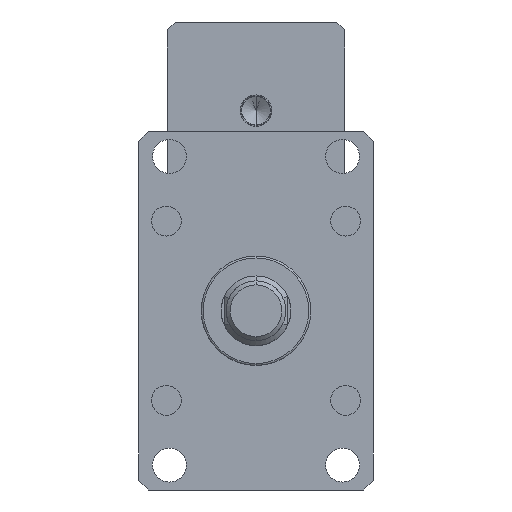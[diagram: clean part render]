
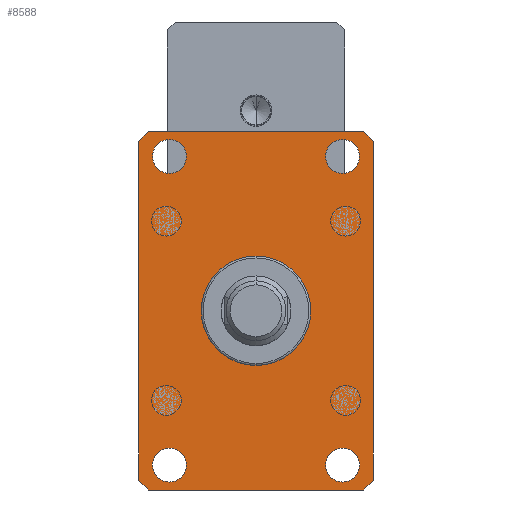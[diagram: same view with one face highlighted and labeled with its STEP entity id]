
A CAD part, front view. The second image highlights one B-rep face of the part: STEP entity #8588.
In plain terms, the highlighted planar face has unit normal (0, -1, 0).
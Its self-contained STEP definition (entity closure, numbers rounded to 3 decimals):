
#188 = EDGE_CURVE ( 'NONE', #7684, #4930, #10134, .T. ) ;
#219 = EDGE_LOOP ( 'NONE', ( #10125, #11797 ) ) ;
#263 = ORIENTED_EDGE ( 'NONE', *, *, #10557, .F. ) ;
#402 = CARTESIAN_POINT ( 'NONE',  ( 43.5, -55., 77.5 ) ) ;
#452 = CIRCLE ( 'NONE', #9370, 8.5 ) ;
#595 = DIRECTION ( 'NONE',  ( 0., 1., 0. ) ) ;
#599 = CIRCLE ( 'NONE', #5552, 8.5 ) ;
#612 = EDGE_CURVE ( 'NONE', #8427, #6131, #452, .T. ) ;
#631 = CARTESIAN_POINT ( 'NONE',  ( -54., -55., -90. ) ) ;
#638 = AXIS2_PLACEMENT_3D ( 'NONE', #9567, #3815, #10527 ) ;
#688 = EDGE_LOOP ( 'NONE', ( #263, #8039 ) ) ;
#775 = FACE_BOUND ( 'NONE', #11923, .T. ) ;
#856 = ORIENTED_EDGE ( 'NONE', *, *, #3364, .T. ) ;
#1099 = CARTESIAN_POINT ( 'NONE',  ( 43.5, -55., 77.5 ) ) ;
#1118 = EDGE_CURVE ( 'NONE', #1322, #2589, #2306, .T. ) ;
#1131 = CARTESIAN_POINT ( 'NONE',  ( 59., -55., -85. ) ) ;
#1266 = ORIENTED_EDGE ( 'NONE', *, *, #3085, .T. ) ;
#1281 = VERTEX_POINT ( 'NONE', #12263 ) ;
#1322 = VERTEX_POINT ( 'NONE', #1722 ) ;
#1358 = LINE ( 'NONE', #1131, #11316 ) ;
#1387 = DIRECTION ( 'NONE',  ( 0., 0., -1. ) ) ;
#1585 = CARTESIAN_POINT ( 'NONE',  ( -43.5, -55., 77.5 ) ) ;
#1599 = VERTEX_POINT ( 'NONE', #11679 ) ;
#1660 = DIRECTION ( 'NONE',  ( -0.707, 0., 0.707 ) ) ;
#1722 = CARTESIAN_POINT ( 'NONE',  ( -59., -55., 85. ) ) ;
#1824 = CARTESIAN_POINT ( 'NONE',  ( -43.5, -55., 77.5 ) ) ;
#1826 = ORIENTED_EDGE ( 'NONE', *, *, #1931, .T. ) ;
#1931 = EDGE_CURVE ( 'NONE', #1599, #1322, #4093, .T. ) ;
#1957 = VERTEX_POINT ( 'NONE', #8673 ) ;
#2023 = EDGE_CURVE ( 'NONE', #10162, #1599, #10225, .T. ) ;
#2082 = DIRECTION ( 'NONE',  ( 0., 0., -1. ) ) ;
#2150 = CARTESIAN_POINT ( 'NONE',  ( -59., -55., -85. ) ) ;
#2246 = EDGE_CURVE ( 'NONE', #2589, #3914, #3631, .T. ) ;
#2300 = CARTESIAN_POINT ( 'NONE',  ( 59., -55., -85. ) ) ;
#2306 = LINE ( 'NONE', #5531, #9707 ) ;
#2400 = AXIS2_PLACEMENT_3D ( 'NONE', #1099, #7888, #2082 ) ;
#2581 = DIRECTION ( 'NONE',  ( 0., 0., -1. ) ) ;
#2589 = VERTEX_POINT ( 'NONE', #2150 ) ;
#2609 = VECTOR ( 'NONE', #11447, 1000. ) ;
#2715 = CIRCLE ( 'NONE', #638, 8.5 ) ;
#2818 = DIRECTION ( 'NONE',  ( 0., 0., -1. ) ) ;
#2821 = EDGE_CURVE ( 'NONE', #1957, #3112, #4366, .T. ) ;
#2861 = DIRECTION ( 'NONE',  ( 0., 1., 0. ) ) ;
#2985 = DIRECTION ( 'NONE',  ( -1., 0., 0. ) ) ;
#3085 = EDGE_CURVE ( 'NONE', #3914, #1281, #6794, .T. ) ;
#3112 = VERTEX_POINT ( 'NONE', #8407 ) ;
#3215 = CARTESIAN_POINT ( 'NONE',  ( 43.5, -55., -69. ) ) ;
#3364 = EDGE_CURVE ( 'NONE', #4930, #7684, #2715, .T. ) ;
#3369 = FACE_BOUND ( 'NONE', #8884, .T. ) ;
#3463 = DIRECTION ( 'NONE',  ( 0.707, 0., -0.707 ) ) ;
#3631 = LINE ( 'NONE', #10158, #9032 ) ;
#3721 = CARTESIAN_POINT ( 'NONE',  ( 43.5, -55., -77.5 ) ) ;
#3815 = DIRECTION ( 'NONE',  ( 0., 1., 0. ) ) ;
#3914 = VERTEX_POINT ( 'NONE', #9842 ) ;
#3988 = VERTEX_POINT ( 'NONE', #2300 ) ;
#4083 = DIRECTION ( 'NONE',  ( 0.707, 0., 0.707 ) ) ;
#4093 = LINE ( 'NONE', #9592, #5773 ) ;
#4366 = CIRCLE ( 'NONE', #11708, 8.5 ) ;
#4532 = VECTOR ( 'NONE', #7440, 1000. ) ;
#4708 = DIRECTION ( 'NONE',  ( 0., 0., 1. ) ) ;
#4787 = ORIENTED_EDGE ( 'NONE', *, *, #5854, .T. ) ;
#4930 = VERTEX_POINT ( 'NONE', #12311 ) ;
#4932 = LINE ( 'NONE', #8448, #5523 ) ;
#4972 = ORIENTED_EDGE ( 'NONE', *, *, #5282, .T. ) ;
#5006 = EDGE_LOOP ( 'NONE', ( #7918, #1826, #5597, #12470, #1266, #5392, #4787, #4972 ) ) ;
#5186 = VERTEX_POINT ( 'NONE', #7105 ) ;
#5282 = EDGE_CURVE ( 'NONE', #10490, #10162, #4932, .T. ) ;
#5392 = ORIENTED_EDGE ( 'NONE', *, *, #6076, .T. ) ;
#5523 = VECTOR ( 'NONE', #1660, 1000. ) ;
#5531 = CARTESIAN_POINT ( 'NONE',  ( -59., -55., 85. ) ) ;
#5552 = AXIS2_PLACEMENT_3D ( 'NONE', #402, #7220, #1387 ) ;
#5558 = CARTESIAN_POINT ( 'NONE',  ( -43.5, -55., -77.5 ) ) ;
#5597 = ORIENTED_EDGE ( 'NONE', *, *, #1118, .T. ) ;
#5773 = VECTOR ( 'NONE', #11494, 1000. ) ;
#5854 = EDGE_CURVE ( 'NONE', #3988, #10490, #8048, .T. ) ;
#5963 = FACE_BOUND ( 'NONE', #219, .T. ) ;
#6076 = EDGE_CURVE ( 'NONE', #1281, #3988, #1358, .T. ) ;
#6131 = VERTEX_POINT ( 'NONE', #7995 ) ;
#6404 = AXIS2_PLACEMENT_3D ( 'NONE', #8624, #2861, #9587 ) ;
#6442 = CARTESIAN_POINT ( 'NONE',  ( 59., -55., 90. ) ) ;
#6527 = DIRECTION ( 'NONE',  ( 0., 0., 1. ) ) ;
#6712 = CARTESIAN_POINT ( 'NONE',  ( 59., -55., 85. ) ) ;
#6733 = EDGE_CURVE ( 'NONE', #11536, #5186, #10710, .T. ) ;
#6794 = LINE ( 'NONE', #631, #4532 ) ;
#6841 = CARTESIAN_POINT ( 'NONE',  ( -54., -55., 90. ) ) ;
#7105 = CARTESIAN_POINT ( 'NONE',  ( 43.5, -55., 86. ) ) ;
#7220 = DIRECTION ( 'NONE',  ( 0., -1., 0. ) ) ;
#7413 = DIRECTION ( 'NONE',  ( 0., 0., 1. ) ) ;
#7440 = DIRECTION ( 'NONE',  ( 1., 0., 0. ) ) ;
#7497 = ORIENTED_EDGE ( 'NONE', *, *, #2821, .F. ) ;
#7541 = ORIENTED_EDGE ( 'NONE', *, *, #188, .T. ) ;
#7684 = VERTEX_POINT ( 'NONE', #10670 ) ;
#7730 = VECTOR ( 'NONE', #2985, 1000. ) ;
#7872 = AXIS2_PLACEMENT_3D ( 'NONE', #6442, #595, #7413 ) ;
#7888 = DIRECTION ( 'NONE',  ( 0., -1., 0. ) ) ;
#7918 = ORIENTED_EDGE ( 'NONE', *, *, #2023, .T. ) ;
#7995 = CARTESIAN_POINT ( 'NONE',  ( 43.5, -55., -86. ) ) ;
#8039 = ORIENTED_EDGE ( 'NONE', *, *, #6733, .F. ) ;
#8048 = LINE ( 'NONE', #6712, #2609 ) ;
#8053 = CARTESIAN_POINT ( 'NONE',  ( 59., -55., 85. ) ) ;
#8198 = FACE_BOUND ( 'NONE', #688, .T. ) ;
#8251 = EDGE_CURVE ( 'NONE', #6131, #8427, #11484, .T. ) ;
#8379 = DIRECTION ( 'NONE',  ( 0., -1., 0. ) ) ;
#8407 = CARTESIAN_POINT ( 'NONE',  ( -43.5, -55., 86. ) ) ;
#8419 = DIRECTION ( 'NONE',  ( 0., 0., -1. ) ) ;
#8427 = VERTEX_POINT ( 'NONE', #3215 ) ;
#8448 = CARTESIAN_POINT ( 'NONE',  ( 54., -55., 90. ) ) ;
#8588 = ADVANCED_FACE ( 'NONE', ( #3369, #5963, #775, #10725, #8198 ), #10222, .F. ) ;
#8593 = DIRECTION ( 'NONE',  ( 0., -1., 0. ) ) ;
#8624 = CARTESIAN_POINT ( 'NONE',  ( 43.5, -55., -77.5 ) ) ;
#8673 = CARTESIAN_POINT ( 'NONE',  ( -43.5, -55., 69. ) ) ;
#8884 = EDGE_LOOP ( 'NONE', ( #10453, #7497 ) ) ;
#9032 = VECTOR ( 'NONE', #3463, 1000. ) ;
#9370 = AXIS2_PLACEMENT_3D ( 'NONE', #3721, #10420, #4708 ) ;
#9526 = CARTESIAN_POINT ( 'NONE',  ( 54., -55., 90. ) ) ;
#9567 = CARTESIAN_POINT ( 'NONE',  ( -43.5, -55., -77.5 ) ) ;
#9587 = DIRECTION ( 'NONE',  ( 0., 0., 1. ) ) ;
#9592 = CARTESIAN_POINT ( 'NONE',  ( -59., -55., 85. ) ) ;
#9707 = VECTOR ( 'NONE', #8419, 1000. ) ;
#9710 = CARTESIAN_POINT ( 'NONE',  ( 43.5, -55., 69. ) ) ;
#9842 = CARTESIAN_POINT ( 'NONE',  ( -54., -55., -90. ) ) ;
#9859 = CIRCLE ( 'NONE', #12548, 8.5 ) ;
#10125 = ORIENTED_EDGE ( 'NONE', *, *, #612, .T. ) ;
#10134 = CIRCLE ( 'NONE', #11754, 8.5 ) ;
#10158 = CARTESIAN_POINT ( 'NONE',  ( -59., -55., -85. ) ) ;
#10162 = VERTEX_POINT ( 'NONE', #9526 ) ;
#10222 = PLANE ( 'NONE',  #7872 ) ;
#10225 = LINE ( 'NONE', #6841, #7730 ) ;
#10420 = DIRECTION ( 'NONE',  ( 0., 1., 0. ) ) ;
#10453 = ORIENTED_EDGE ( 'NONE', *, *, #11424, .F. ) ;
#10490 = VERTEX_POINT ( 'NONE', #8053 ) ;
#10527 = DIRECTION ( 'NONE',  ( 0., 0., 1. ) ) ;
#10557 = EDGE_CURVE ( 'NONE', #5186, #11536, #599, .T. ) ;
#10670 = CARTESIAN_POINT ( 'NONE',  ( -43.5, -55., -69. ) ) ;
#10710 = CIRCLE ( 'NONE', #2400, 8.5 ) ;
#10725 = FACE_OUTER_BOUND ( 'NONE', #5006, .T. ) ;
#11316 = VECTOR ( 'NONE', #4083, 1000. ) ;
#11424 = EDGE_CURVE ( 'NONE', #3112, #1957, #9859, .T. ) ;
#11447 = DIRECTION ( 'NONE',  ( 0., 0., 1. ) ) ;
#11484 = CIRCLE ( 'NONE', #6404, 8.5 ) ;
#11494 = DIRECTION ( 'NONE',  ( -0.707, 0., -0.707 ) ) ;
#11536 = VERTEX_POINT ( 'NONE', #9710 ) ;
#11679 = CARTESIAN_POINT ( 'NONE',  ( -54., -55., 90. ) ) ;
#11708 = AXIS2_PLACEMENT_3D ( 'NONE', #1585, #8379, #2581 ) ;
#11754 = AXIS2_PLACEMENT_3D ( 'NONE', #5558, #12257, #6527 ) ;
#11797 = ORIENTED_EDGE ( 'NONE', *, *, #8251, .T. ) ;
#11923 = EDGE_LOOP ( 'NONE', ( #7541, #856 ) ) ;
#12257 = DIRECTION ( 'NONE',  ( 0., 1., 0. ) ) ;
#12263 = CARTESIAN_POINT ( 'NONE',  ( 54., -55., -90. ) ) ;
#12311 = CARTESIAN_POINT ( 'NONE',  ( -43.5, -55., -86. ) ) ;
#12470 = ORIENTED_EDGE ( 'NONE', *, *, #2246, .T. ) ;
#12548 = AXIS2_PLACEMENT_3D ( 'NONE', #1824, #8593, #2818 ) ;
